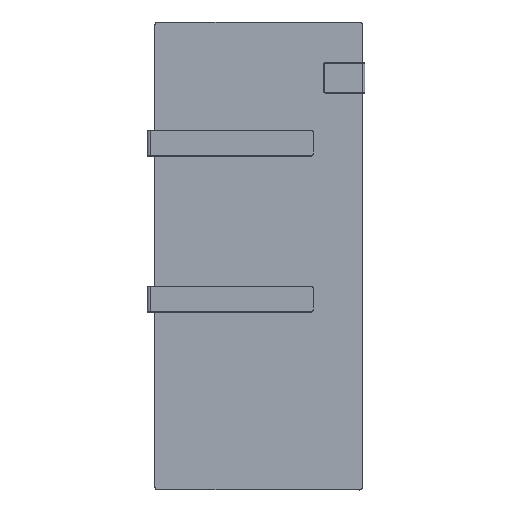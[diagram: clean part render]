
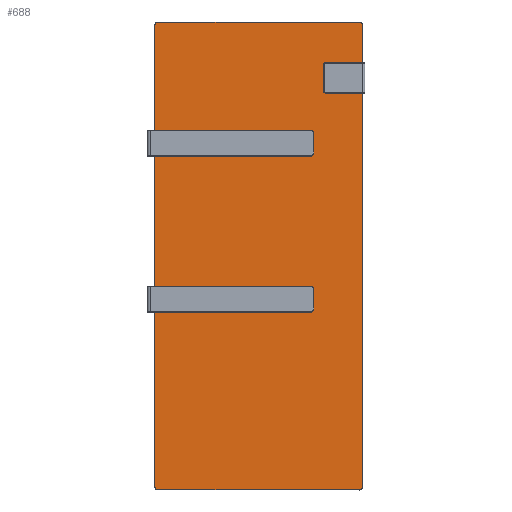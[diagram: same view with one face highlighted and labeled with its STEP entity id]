
A CAD part, top view. The second image highlights one B-rep face of the part: STEP entity #688.
In plain terms, the highlighted planar face has unit normal (0, 0, 1).
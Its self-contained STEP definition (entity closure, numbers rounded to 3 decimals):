
#661 = EDGE_CURVE('',#662,#664,#666,.T.);
#662 = VERTEX_POINT('',#663);
#663 = CARTESIAN_POINT('',(-199.5,444.,4.));
#664 = VERTEX_POINT('',#665);
#665 = CARTESIAN_POINT('',(-199.5,-444.,4.));
#666 = LINE('',#667,#668);
#667 = CARTESIAN_POINT('',(-199.5,444.,4.)
  );
#668 = VECTOR('',#669,1.);
#669 = DIRECTION('',(0.,-1.,0.));
#688 = ADVANCED_FACE('',(#689),#818,.T.);
#689 = FACE_BOUND('',#690,.F.);
#690 = EDGE_LOOP('',(#691,#700,#701,#710,#718,#727,#735,#744,#752,#761,
    #769,#778,#786,#795,#803,#812));
#691 = ORIENTED_EDGE('',*,*,#692,.F.);
#692 = EDGE_CURVE('',#664,#693,#695,.T.);
#693 = VERTEX_POINT('',#694);
#694 = CARTESIAN_POINT('',(-194.,-449.5,4.));
#695 = CIRCLE('',#696,5.5);
#696 = AXIS2_PLACEMENT_3D('',#697,#698,#699);
#697 = CARTESIAN_POINT('',(-194.,-444.,4.));
#698 = DIRECTION('',(0.,0.,1.));
#699 = DIRECTION('',(-1.,0.,0.));
#700 = ORIENTED_EDGE('',*,*,#661,.F.);
#701 = ORIENTED_EDGE('',*,*,#702,.F.);
#702 = EDGE_CURVE('',#703,#662,#705,.T.);
#703 = VERTEX_POINT('',#704);
#704 = CARTESIAN_POINT('',(-194.,449.5,4.
    ));
#705 = CIRCLE('',#706,5.5);
#706 = AXIS2_PLACEMENT_3D('',#707,#708,#709);
#707 = CARTESIAN_POINT('',(-194.,444.,4.));
#708 = DIRECTION('',(0.,-0.,1.));
#709 = DIRECTION('',(0.,1.,0.));
#710 = ORIENTED_EDGE('',*,*,#711,.F.);
#711 = EDGE_CURVE('',#712,#703,#714,.T.);
#712 = VERTEX_POINT('',#713);
#713 = CARTESIAN_POINT('',(194.,449.5,4.));
#714 = LINE('',#715,#716);
#715 = CARTESIAN_POINT('',(194.,449.5,4.)
  );
#716 = VECTOR('',#717,1.);
#717 = DIRECTION('',(-1.,0.,0.));
#718 = ORIENTED_EDGE('',*,*,#719,.F.);
#719 = EDGE_CURVE('',#720,#712,#722,.T.);
#720 = VERTEX_POINT('',#721);
#721 = CARTESIAN_POINT('',(199.5,444.,4.)
  );
#722 = CIRCLE('',#723,5.5);
#723 = AXIS2_PLACEMENT_3D('',#724,#725,#726);
#724 = CARTESIAN_POINT('',(194.,444.,4.));
#725 = DIRECTION('',(0.,0.,1.));
#726 = DIRECTION('',(1.,0.,-0.));
#727 = ORIENTED_EDGE('',*,*,#728,.F.);
#728 = EDGE_CURVE('',#729,#720,#731,.T.);
#729 = VERTEX_POINT('',#730);
#730 = CARTESIAN_POINT('',(199.5,371.5,4.));
#731 = LINE('',#732,#733);
#732 = CARTESIAN_POINT('',(199.5,371.5,4.)
  );
#733 = VECTOR('',#734,1.);
#734 = DIRECTION('',(0.,1.,0.));
#735 = ORIENTED_EDGE('',*,*,#736,.F.);
#736 = EDGE_CURVE('',#737,#729,#739,.T.);
#737 = VERTEX_POINT('',#738);
#738 = CARTESIAN_POINT('',(199.,371.,4.)
  );
#739 = CIRCLE('',#740,0.5);
#740 = AXIS2_PLACEMENT_3D('',#741,#742,#743);
#741 = CARTESIAN_POINT('',(199.,371.5,4.));
#742 = DIRECTION('',(0.,0.,1.));
#743 = DIRECTION('',(0.,-1.,0.));
#744 = ORIENTED_EDGE('',*,*,#745,.F.);
#745 = EDGE_CURVE('',#746,#737,#748,.T.);
#746 = VERTEX_POINT('',#747);
#747 = CARTESIAN_POINT('',(132.25,371.,4.));
#748 = LINE('',#749,#750);
#749 = CARTESIAN_POINT('',(132.25,371.,4.)
  );
#750 = VECTOR('',#751,1.);
#751 = DIRECTION('',(1.,0.,0.));
#752 = ORIENTED_EDGE('',*,*,#753,.F.);
#753 = EDGE_CURVE('',#754,#746,#756,.T.);
#754 = VERTEX_POINT('',#755);
#755 = CARTESIAN_POINT('',(126.75,365.5,4.)
  );
#756 = CIRCLE('',#757,5.5);
#757 = AXIS2_PLACEMENT_3D('',#758,#759,#760);
#758 = CARTESIAN_POINT('',(132.25,365.5,4.));
#759 = DIRECTION('',(0.,0.,-1.));
#760 = DIRECTION('',(-1.,0.,0.));
#761 = ORIENTED_EDGE('',*,*,#762,.F.);
#762 = EDGE_CURVE('',#763,#754,#765,.T.);
#763 = VERTEX_POINT('',#764);
#764 = CARTESIAN_POINT('',(126.75,319.,4.));
#765 = LINE('',#766,#767);
#766 = CARTESIAN_POINT('',(126.75,319.,4.)
  );
#767 = VECTOR('',#768,1.);
#768 = DIRECTION('',(0.,1.,0.));
#769 = ORIENTED_EDGE('',*,*,#770,.F.);
#770 = EDGE_CURVE('',#771,#763,#773,.T.);
#771 = VERTEX_POINT('',#772);
#772 = CARTESIAN_POINT('',(132.25,313.5,4.)
  );
#773 = CIRCLE('',#774,5.5);
#774 = AXIS2_PLACEMENT_3D('',#775,#776,#777);
#775 = CARTESIAN_POINT('',(132.25,319.,4.));
#776 = DIRECTION('',(0.,0.,-1.));
#777 = DIRECTION('',(0.,-1.,0.));
#778 = ORIENTED_EDGE('',*,*,#779,.F.);
#779 = EDGE_CURVE('',#780,#771,#782,.T.);
#780 = VERTEX_POINT('',#781);
#781 = CARTESIAN_POINT('',(199.,313.5,4.));
#782 = LINE('',#783,#784);
#783 = CARTESIAN_POINT('',(199.,313.5,4.)
  );
#784 = VECTOR('',#785,1.);
#785 = DIRECTION('',(-1.,0.,0.));
#786 = ORIENTED_EDGE('',*,*,#787,.F.);
#787 = EDGE_CURVE('',#788,#780,#790,.T.);
#788 = VERTEX_POINT('',#789);
#789 = CARTESIAN_POINT('',(199.5,313.,4.)
  );
#790 = CIRCLE('',#791,0.5);
#791 = AXIS2_PLACEMENT_3D('',#792,#793,#794);
#792 = CARTESIAN_POINT('',(199.,313.,4.));
#793 = DIRECTION('',(0.,0.,1.));
#794 = DIRECTION('',(1.,0.,-0.));
#795 = ORIENTED_EDGE('',*,*,#796,.F.);
#796 = EDGE_CURVE('',#797,#788,#799,.T.);
#797 = VERTEX_POINT('',#798);
#798 = CARTESIAN_POINT('',(199.5,-444.,4.));
#799 = LINE('',#800,#801);
#800 = CARTESIAN_POINT('',(199.5,-444.,4.)
  );
#801 = VECTOR('',#802,1.);
#802 = DIRECTION('',(0.,1.,0.));
#803 = ORIENTED_EDGE('',*,*,#804,.F.);
#804 = EDGE_CURVE('',#805,#797,#807,.T.);
#805 = VERTEX_POINT('',#806);
#806 = CARTESIAN_POINT('',(194.,-449.5,4.
    ));
#807 = CIRCLE('',#808,5.5);
#808 = AXIS2_PLACEMENT_3D('',#809,#810,#811);
#809 = CARTESIAN_POINT('',(194.,-444.,4.));
#810 = DIRECTION('',(0.,0.,1.));
#811 = DIRECTION('',(0.,-1.,0.));
#812 = ORIENTED_EDGE('',*,*,#813,.F.);
#813 = EDGE_CURVE('',#693,#805,#814,.T.);
#814 = LINE('',#815,#816);
#815 = CARTESIAN_POINT('',(-194.,-449.5,4.
    ));
#816 = VECTOR('',#817,1.);
#817 = DIRECTION('',(1.,0.,0.));
#818 = PLANE('',#819);
#819 = AXIS2_PLACEMENT_3D('',#820,#821,#822);
#820 = CARTESIAN_POINT('',(0.,0.,4.));
#821 = DIRECTION('',(0.,0.,1.));
#822 = DIRECTION('',(1.,0.,-0.));
